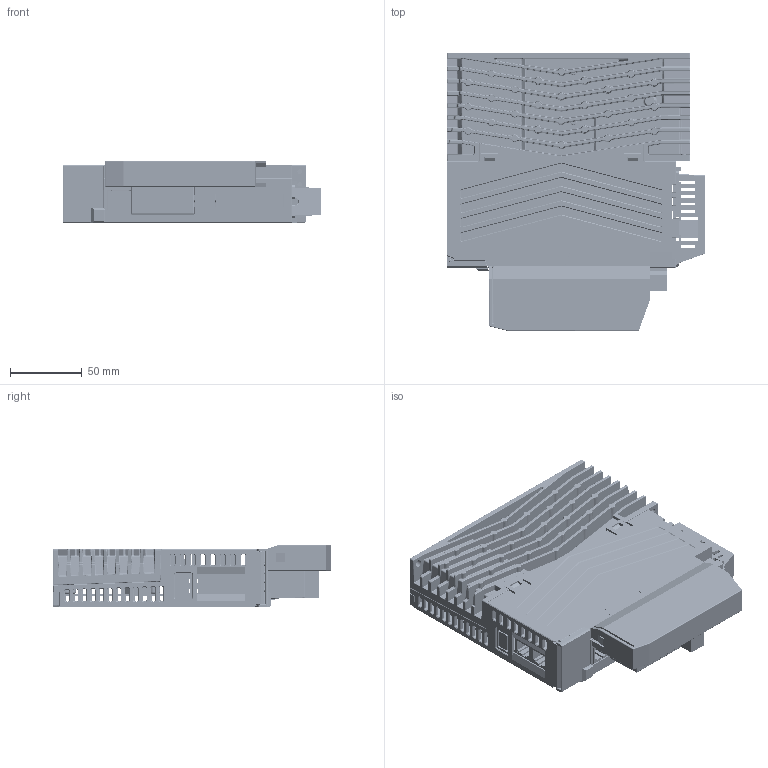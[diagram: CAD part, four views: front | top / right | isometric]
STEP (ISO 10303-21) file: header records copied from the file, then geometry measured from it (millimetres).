
FILE_DESCRIPTION((''),'2;1');
FILE_NAME('220V15A_700S_TOP_ASM_ASM','2021-12-17T',('Cyclone_Aero15X'),(''),'PRO/ENGINEER BY PARAMETRIC TECHNOLOGY CORPORATION, 2010280','PRO/ENGINEER BY PARAMETRIC TECHNOLOGY CORPORATION, 2010280','');
FILE_SCHEMA(('CONFIG_CONTROL_DESIGN'));
Products named in the file (59): 220V15A_700S_CPUIGBTBD_1; RJ45_2POS_9; DB26_6; MANIFOLD_SOLID_BREP_101978; MANIFOLD_SOLID_BREP_102269; _3E106-2230KV_IGS_6; 3E106-2230KV_IGS_6_ASM; P5_9PIN_POWERPORT_3; NGSS-400W-HMIPART_36; NGSS-400W-DISPLAY_6; BUTN_LONG_4X4X3P8_7; NGSS-400W-DISPLAYBD_ASM_3_ASM; RJ45_1POS_7; SIDELED_7; 220V15A_700S_CPUIGBTBD_ASM_3_ASM; 220V15A_700S_SHD_TEMP_V2_CAST_1; NGSS-400W-COVER_9; PLUG_IEEE1394_3; P5_9P_PLUGIN_2; PMMA_6; 220V15A_700S_HEATSINK_V5_1; BD_ADPT_2_6; ADAPTOR_TEMINAL_2_6; MANIFOLD_SOLID_BREP_309319; MANIFOLD_SOLID_BREP_309407; MANIFOLD_SOLID_BREP_309495; MANIFOLD_SOLID_BREP_309583; MANIFOLD_SOLID_BREP_309671; MANIFOLD_SOLID_BREP_309759; MANIFOLD_SOLID_BREP_309847; MANIFOLD_SOLID_BREP_309935; MANIFOLD_SOLID_BREP_310023; MANIFOLD_SOLID_BREP_310111; MANIFOLD_SOLID_BREP_310199; MANIFOLD_SOLID_BREP_310287; MANIFOLD_SOLID_BREP_310375; MANIFOLD_SOLID_BREP_310463; MANIFOLD_SOLID_BREP_310551; MANIFOLD_SOLID_BREP_310639; MANIFOLD_SOLID_BREP_310727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
Assembly tree (62 placements, depth 5):
  220V15A_700S_TOP_ASM_ASM
    220V15A_700S_TOP_ASM_7_ASM
      220V15A_700S_CPUIGBTBD_ASM_3_ASM
        220V15A_700S_CPUIGBTBD_1
        RJ45_2POS_9
        DB26_6
        3E106-2230KV_IGS_6_ASM
          MANIFOLD_SOLID_BREP_101978
          MANIFOLD_SOLID_BREP_102269
          _3E106-2230KV_IGS_6
        P5_9PIN_POWERPORT_3
        NGSS-400W-DISPLAYBD_ASM_3_ASM
          NGSS-400W-HMIPART_36
          NGSS-400W-DISPLAY_6
          BUTN_LONG_4X4X3P8_7  x4
        RJ45_1POS_7
        SIDELED_7
      220V15A_700S_SHD_TEMP_V2_CAST_1
      NGSS-400W-COVER_9
      PLUG_IEEE1394_3
      P5_9P_PLUGIN_2
      PMMA_6
      220V15A_700S_HEATSINK_V5_1
      BD_ADPT_2_ASM_9_ASM
        BD_ADPT_2_6
        ADAPTOR_TEMINAL_2_6
        DB26_SOCKET_90D_MALE_8_ASM
          MANIFOLD_SOLID_BREP_309319
          MANIFOLD_SOLID_BREP_309407
          MANIFOLD_SOLID_BREP_309495
          MANIFOLD_SOLID_BREP_309583
          MANIFOLD_SOLID_BREP_309671
          MANIFOLD_SOLID_BREP_309759
          MANIFOLD_SOLID_BREP_309847
          MANIFOLD_SOLID_BREP_309935
          MANIFOLD_SOLID_BREP_310023
          MANIFOLD_SOLID_BREP_310111
          MANIFOLD_SOLID_BREP_310199
          MANIFOLD_SOLID_BREP_310287
          MANIFOLD_SOLID_BREP_310375
          MANIFOLD_SOLID_BREP_310463
          MANIFOLD_SOLID_BREP_310551
          MANIFOLD_SOLID_BREP_310639
          MANIFOLD_SOLID_BREP_310727
          MANIFOLD_SOLID_BREP_310815
          MANIFOLD_SOLID_BREP_310903
          MANIFOLD_SOLID_BREP_310991
          MANIFOLD_SOLID_BREP_311079
          MANIFOLD_SOLID_BREP_311167
          MANIFOLD_SOLID_BREP_311255
          MANIFOLD_SOLID_BREP_311343
          MANIFOLD_SOLID_BREP_311431
          MANIFOLD_SOLID_BREP_311519
          MANIFOLD_SOLID_BREP_311607
        PAD_2_6
        IO_GADGET_5
        HDBPLUGINSCREW_8  x2
      TMN_SHD3_9
      BAT_BOX_UP2_5
Bounding box: 180.5 x 194 x 43.59 mm (x, y, z)
Volume: 409594.7 mm3; surface area: 312247.1 mm2
Topology: 55 solids, 75 shells, 6795 faces, 17500 edges, 10971 vertices
Faces by surface type: plane 3587, cylinder 1978, bspline 452, torus 445, cone 312, sphere 19, revolution 2
Entity records: 226430 total; most frequent: CARTESIAN_POINT 67338, ORIENTED_EDGE 33655, DIRECTION 31316, EDGE_CURVE 16977, VECTOR 11032, LINE 11032, VERTEX_POINT 10645, AXIS2_PLACEMENT_3D 10141
